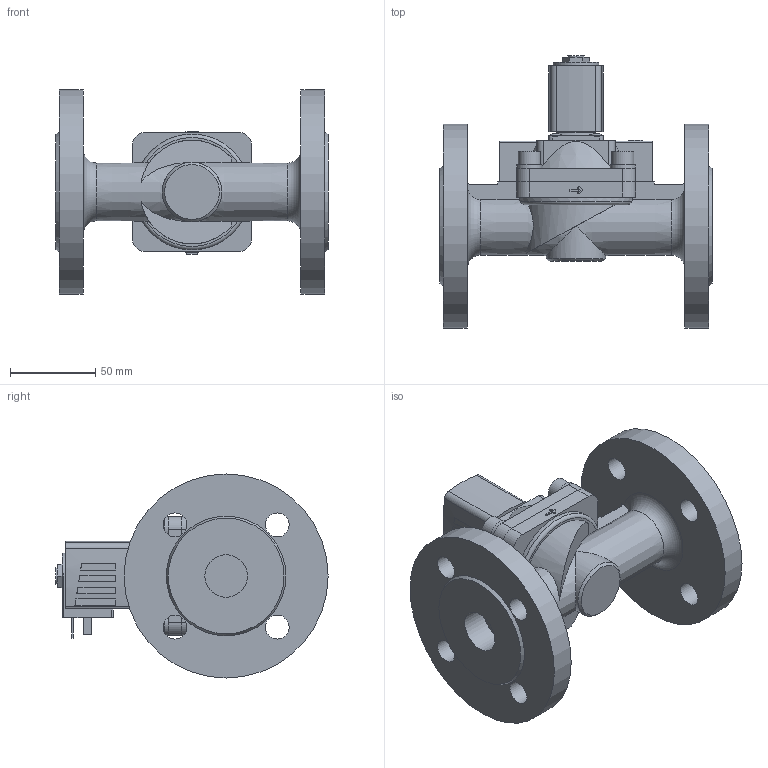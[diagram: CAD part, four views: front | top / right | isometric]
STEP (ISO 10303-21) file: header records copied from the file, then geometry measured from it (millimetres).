
FILE_DESCRIPTION(/* description */ ('STEP AP214'),/* implementation_level */ '2;1');
FILE_NAME(/* name */ '5404-354392-Servo-assisted_2_2_way_piston_valve',/* time_stamp */ '2024-02-27T11:22:39+01:00',/* author */ ('License CC BY-ND 4.0'),/* organization */ ('CADENAS'),/* preprocessor_version */ 'ST-DEVELOPER v19.3',/* originating_system */ 'PARTsolutions',/* authorisation */ ' ');
FILE_SCHEMA (('AUTOMOTIVE_DESIGN {1 0 10303 214 3 1 1}'));
Length unit declared in the file: millimetre
Products named in the file (4): 5404-354392-Servo-assisted 2/2 way piston valve; 5282g-FD0125VA100-2/2-Wege-Magnetventil_Gehaeuse; 5282d-25MSAU3N-2/2-Wege-Magnetventil_Deckel; AC10ex-5NA38-Plan-Coil
Assembly tree (3 placements, depth 2):
  5404-354392-Servo-assisted 2/2 way piston valve
    5282g-FD0125VA100-2/2-Wege-Magnetventil_Gehaeuse
    5282d-25MSAU3N-2/2-Wege-Magnetventil_Deckel
    AC10ex-5NA38-Plan-Coil
Bounding box: 160 x 160.1 x 120 mm (x, y, z)
Volume: 653207.6 mm3; surface area: 111637 mm2
Topology: 3 solids, 3 shells, 299 faces, 747 edges, 497 vertices
Faces by surface type: plane 179, cylinder 96, cone 15, torus 9
Full cylindrical faces by diameter (mm): 2.013 x1, 4 x4, 7.5 x4, 7.6 x4, 9.74 x1, 13 x4, 14 x8, 14.8 x4, 21 x1, 25 x2, 35 x1, 120 x2
Entity records: 9580 total; most frequent: CARTESIAN_POINT 1800, DIRECTION 1468, ORIENTED_EDGE 1372, EDGE_CURVE 686, AXIS2_PLACEMENT_3D 537, VERTEX_POINT 482, EDGE_LOOP 404, FACE_BOUND 404
